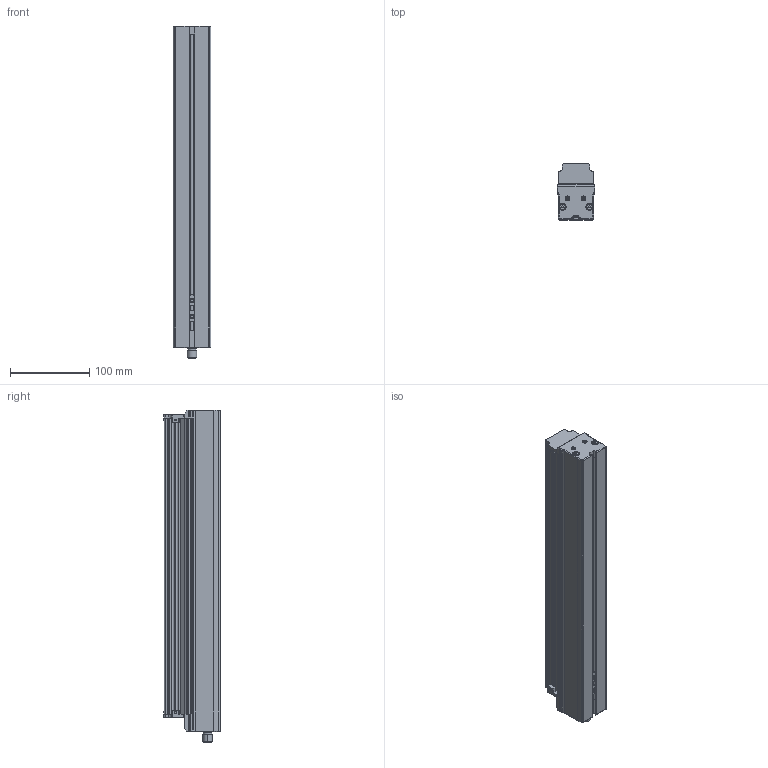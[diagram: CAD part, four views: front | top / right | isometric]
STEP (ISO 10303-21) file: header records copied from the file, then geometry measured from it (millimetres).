
FILE_DESCRIPTION (( 'STEP AP214' ), '1' );
FILE_NAME ('ELINE-EC-375-xxx-xx_CLIENT.STEP', '2026-06-08T12:06:56', ( '' ), ( '' ), 'SwSTEP 2.0', 'SolidWorks 2025', '' );
FILE_SCHEMA (( 'AUTOMOTIVE_DESIGN' ));
Length unit declared in the file: millimetre
Products named in the file (3): 1-X2014-01-3-A_1; ELINE-EC-xxx-xxx-xx_CLIENT_375; ELINE-EC-375-xxx-xx_CLIENT
Assembly tree (3 placements, depth 2):
  ELINE-EC-375-xxx-xx_CLIENT
    ELINE-EC-xxx-xxx-xx_CLIENT_375
    1-X2014-01-3-A_1  x2
Bounding box: 47.7 x 70.9 x 420.05 mm (x, y, z)
Volume: 1133318.6 mm3; surface area: 114682.6 mm2
Topology: 3 solids, 3 shells, 926 faces, 2415 edges, 1559 vertices
Faces by surface type: plane 430, cylinder 274, bspline 140, torus 64, cone 14, sphere 4
Entity records: 32396 total; most frequent: CARTESIAN_POINT 10869, ORIENTED_EDGE 4684, DIRECTION 4132, EDGE_CURVE 2342, VERTEX_POINT 1518, AXIS2_PLACEMENT_3D 1408, VECTOR 1316, LINE 1316
